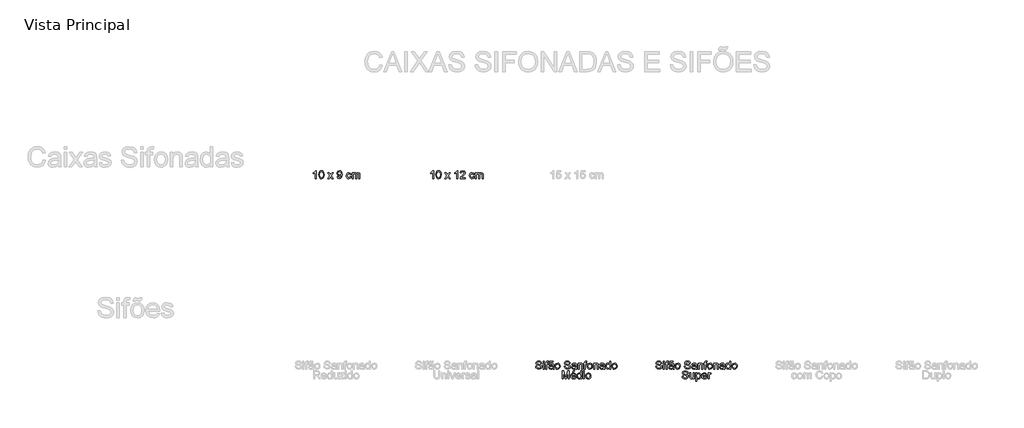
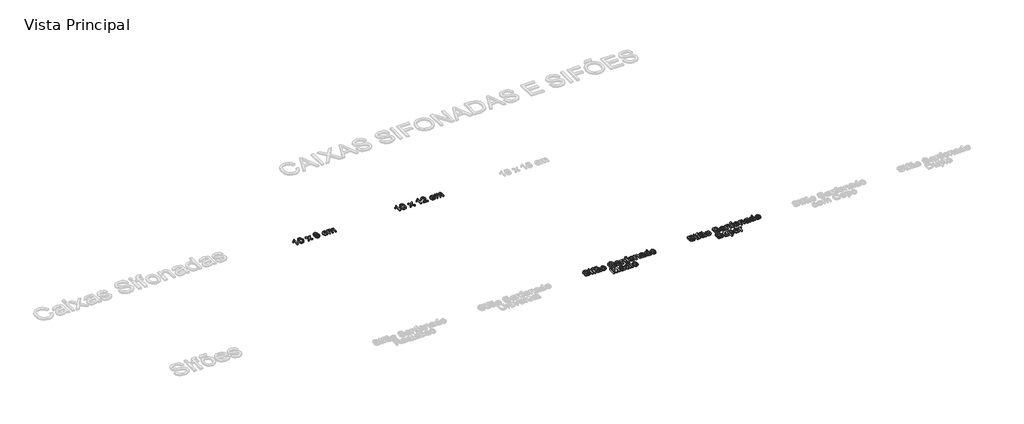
# One storey, part 3 of 5: 4 proxies.
"""IFC4 building model written with IfcOpenShell, lengths in millimetres."""

from ifc_helpers import new_model, si_unit, origin, origin_with_axes, place, context, project, spatial, polyline, outline, extrude, element, save

model = new_model("IFC4")

# Units and contexts
model_context = context("Model", 3, world=origin())
ifc_project = project(units=[si_unit("LENGTHUNIT", "METRE", prefix="MILLI")], contexts=[model_context])

# Site, building, storey
site = spatial("IfcSite", under=ifc_project)
building = spatial("IfcBuilding", under=site)
storey = spatial("IfcBuildingStorey", under=building, Name="Vista Principal", Elevation=0.0)

# Proxies
placement = place(None, origin())
element("IfcBuildingElementProxy", 1, Name="Texto", ObjectType="Texto", at=placement, inside=storey, context=model_context, shape_type="SweptSolid", body=[
    extrude(outline(polyline([(-849.2974534, -411.7621072), (-856.8316767, -411.7621072), (-856.8316767, -364.7909341), (-863.9685874, -369.8750633), (-871.9001232, -373.6789631), (-871.9001232, -366.5567677), (-860.8563057, -359.5081486), (-854.1534958, -351.4883211), (-849.2974534, -351.4883211), (-849.2974534, -411.7621072)])), origin_with_axes(), (0.0, 0.0, 1.0), 10.0),
    extrude(outline(polyline([(-831.4036732, -382.1108184), (-829.1890236, -364.7688612), (-822.6112935, -354.7698285), (-811.6263371, -351.4883211), (-802.8265998, -353.4307381), (-796.7491893, -359.029902), (-793.2175221, -367.9473616), (-791.8490011, -382.1108184), (-794.0415778, -399.3791993), (-800.5972349, -409.4003048), (-811.6263371, -412.7038851), (-819.454866, -411.2691454), (-825.399839, -406.964926), (-829.9027147, -396.7709159), (-831.4036732, -382.1108184)]), holes=[polyline([(-823.8694499, -382.0961031), (-820.3377828, -400.8065814), (-811.6263371, -405.1696619), (-802.9148915, -400.7918661), (-799.3832243, -382.0961031), (-802.7971693, -363.5989964), (-811.7146288, -359.0225444), (-820.2200606, -363.0545311), (-823.8694499, -382.0961031)])]), origin_with_axes(), (0.0, 0.0, 1.0), 10.0),
    extrude(outline(polyline([(-764.5374418, -411.7621072), (-748.4389257, -389.5126042), (-763.5956639, -367.4985456), (-754.5310515, -367.4985456), (-747.2175574, -378.093547), (-743.8036125, -383.0967422), (-740.8458413, -379.0058944), (-732.5169929, -367.4985456), (-723.4523805, -367.4985456), (-739.3743133, -389.5126042), (-724.0409917, -411.7621072), (-733.1056041, -411.7621072), (-742.3320845, -398.3859179), (-744.0243417, -395.9431814), (-755.4728294, -411.7621072), (-764.5374418, -411.7621072)])), origin_with_axes(), (0.0, 0.0, 1.0), 10.0),
    extrude(outline(polyline([(-667.5343173, -411.7621072), (-675.0685405, -411.7621072), (-675.0685405, -364.7909341), (-682.2054512, -369.8750633), (-690.1369871, -373.6789631), (-690.1369871, -366.5567677), (-679.0931696, -359.5081486), (-672.3903596, -351.4883211), (-667.5343173, -351.4883211), (-667.5343173, -411.7621072)])), origin_with_axes(), (0.0, 0.0, 1.0), 10.0),
    extrude(outline(polyline([(-611.0276428, -404.227884), (-611.0276428, -411.7621072), (-650.5823149, -411.7621072), (-649.7729745, -406.5676135), (-645.1965225, -398.5698589), (-635.7640282, -389.8363403), (-622.7557208, -377.2842066), (-619.503644, -368.7493444), (-622.5717798, -361.8405205), (-630.5842497, -359.0225444), (-638.935171, -361.7743017), (-642.1063138, -369.3821014), (-649.640537, -368.4403235), (-643.8647897, -355.8293287), (-630.4223816, -351.4883211), (-616.9358277, -356.3149329), (-611.9694207, -368.2931707), (-613.3085112, -375.437439), (-617.7598833, -382.8245095), (-628.5535411, -393.1472783), (-637.2208409, -400.3945536), (-640.6200705, -404.227884), (-611.0276428, -404.227884)])), origin_with_axes(), (0.0, 0.0, 1.0), 10.0),
    extrude(outline(polyline([(-549.8120788, -395.7518828), (-542.2778556, -396.6936607), (-548.3258356, -408.4585269), (-560.2746428, -412.7038851), (-568.288952, -411.2231601), (-574.5558218, -406.780985), (-578.6006843, -399.5723373), (-579.9489719, -389.7921945), (-577.6460306, -377.276849), (-570.6268421, -369.2349486), (-560.3776497, -366.5567677), (-548.9218044, -370.2355876), (-543.2196335, -380.6834363), (-550.7538567, -381.6252142), (-554.2487357, -375.9819044), (-560.3187886, -374.0909909), (-569.0523072, -377.8139567), (-572.4147486, -389.5861806), (-569.1258836, -401.468769), (-560.5248025, -405.1696619), (-553.42468, -402.8593629), (-549.8120788, -395.7518828)])), origin_with_axes(), (0.0, 0.0, 1.0), 10.0),
    extrude(outline(polyline([(-535.6854102, -411.7621072), (-535.6854102, -367.4985456), (-528.1511869, -367.4985456), (-528.1511869, -374.7826091), (-522.9714084, -368.8155631), (-515.5990533, -366.5567677), (-508.0501147, -368.859709), (-503.9004058, -375.3123592), (-498.0216515, -368.7456655), (-490.5977929, -366.5567677), (-480.745913, -370.1987994), (-477.2951799, -381.4192003), (-477.2951799, -411.7621072), (-484.8294032, -411.7621072), (-484.8294032, -384.6565618), (-485.528379, -378.3657797), (-488.0594071, -375.2682133), (-492.3636264, -374.0909909), (-499.7727698, -377.1076233), (-502.7231834, -386.7755621), (-502.7231834, -411.7621072), (-510.2574067, -411.7621072), (-510.2574067, -383.8177909), (-512.0011674, -376.5190121), (-517.7180536, -374.0909909), (-523.2951446, -375.7096717), (-527.0033951, -380.4479918), (-528.1511869, -389.4390278), (-528.1511869, -411.7621072), (-535.6854102, -411.7621072)])), origin_with_axes(), (0.0, 0.0, 1.0), 10.0),
])
element("IfcBuildingElementProxy", 2, Name="Texto", ObjectType="Texto", at=placement, inside=storey, context=model_context, shape_type="SweptSolid", body=[
    extrude(outline(polyline([(-84.9026785, -1818.6887424), (-77.3684552, -1818.6887424), (-74.940434, -1826.2303233), (-69.0101763, -1830.998074), (-59.9749945, -1832.8154111), (-52.1023198, -1831.4395324), (-47.0181906, -1827.6577055), (-45.3480063, -1822.6030069), (-46.5988051, -1817.901475), (-51.7197225, -1814.4801724), (-62.6899636, -1811.6033352), (-74.4989756, -1807.8877271), (-80.90748, -1802.2812055), (-83.0191226, -1794.791128), (-80.4071605, -1786.2636234), (-72.7772879, -1780.2450739), (-61.6083905, -1778.1922924), (-49.6890139, -1780.3407233), (-41.7427628, -1786.6535783), (-38.755561, -1796.0860727), (-46.2897842, -1796.0860727), (-50.5572154, -1788.3458355), (-61.3140849, -1785.7265157), (-72.100385, -1788.3164049), (-75.4848994, -1794.5703988), (-73.0863088, -1799.7943232), (-60.7843349, -1804.0028932), (-47.4522914, -1807.7847201), (-40.1608702, -1813.8915612), (-37.8137831, -1822.4117082), (-40.5140369, -1831.4248171), (-48.2837047, -1838.0025472), (-59.6806889, -1840.3496343), (-73.1378123, -1837.8186062), (-81.6506016, -1830.1960912), (-84.9026785, -1818.6887424)])), origin_with_axes(), (0.0, 0.0, 1.0), 10.0),
    extrude(outline(polyline([(-27.4542261, -1839.4078564), (-27.4542261, -1795.1442947), (-19.9200028, -1795.1442947), (-19.9200028, -1839.4078564), (-27.4542261, -1839.4078564)])), origin_with_axes(), (0.0, 0.0, 1.0), 10.0),
    extrude(outline(polyline([(-27.4542261, -1786.6682936), (-27.4542261, -1779.1340703), (-19.9200028, -1779.1340703), (-19.9200028, -1786.6682936), (-27.4542261, -1786.6682936)])), origin_with_axes(), (0.0, 0.0, 1.0), 10.0),
    extrude(outline(polyline([(-6.7351121, -1839.4078564), (-6.7351121, -1802.678518), (-13.3275575, -1802.678518), (-13.3275575, -1795.1442947), (-6.7351121, -1795.1442947), (-6.7351121, -1790.685565), (-5.940487, -1784.4021405), (-2.0850837, -1779.9139801), (5.5080007, -1778.1922924), (12.3800363, -1779.0163481), (11.2763904, -1786.0796824), (6.9353828, -1785.7265157), (2.1897051, -1786.9773145), (0.7991111, -1791.6420582), (0.7991111, -1795.1442947), (9.2751123, -1795.1442947), (9.2751123, -1802.678518), (0.7991111, -1802.678518), (0.7991111, -1839.4078564), (-6.7351121, -1839.4078564)])), origin_with_axes(), (0.0, 0.0, 1.0), 10.0),
    extrude(outline(polyline([(44.1208949, -1833.757189), (36.8147585, -1838.8633911), (28.7434275, -1840.3496343), (17.802617, -1836.7738213), (13.9840018, -1827.6356326), (15.4260993, -1821.6759442), (19.2152838, -1817.349652), (24.4907116, -1814.877485), (31.0095806, -1813.7444084), (44.076749, -1811.1545192), (44.1208949, -1809.4769773), (42.0460404, -1803.9146015), (33.7171921, -1801.7367401), (26.0946771, -1803.1861952), (22.460003, -1808.3291855), (14.9257798, -1807.3874075), (18.1852142, -1800.0297676), (24.748229, -1795.7181907), (34.6884005, -1794.2025168), (43.8192317, -1795.5416073), (48.9769372, -1798.9040487), (51.2872362, -1804.0176085), (51.6551181, -1810.6100538), (51.6551181, -1819.9836871), (52.0377154, -1833.0729284), (53.538674, -1839.4078564), (46.0044507, -1839.4078564), (44.1208949, -1833.757189)]), holes=[polyline([(44.1208949, -1818.6887424), (31.9660738, -1820.9990414), (25.483993, -1822.2204096), (22.5482947, -1824.2069724), (21.5182251, -1827.1058825), (23.7623053, -1831.182015), (30.347393, -1832.8154111), (37.9699079, -1831.0127893), (42.8848114, -1826.6497088), (44.076749, -1820.822458), (44.1208949, -1818.6887424)])]), origin_with_axes(), (0.0, 0.0, 1.0), 10.0),
    extrude(outline(polyline([(20.5764472, -1790.4354052), (22.9161767, -1782.2095638), (28.9052956, -1779.1340703), (34.9385603, -1781.5620915), (37.9846232, -1782.9011819), (39.5812311, -1782.143345), (40.3537833, -1779.1340703), (46.9462286, -1779.1340703), (44.5549956, -1787.6100715), (38.7792483, -1790.4354052), (32.81956, -1788.1398216), (29.6410596, -1786.6682936), (27.8457954, -1787.6247868), (27.1688926, -1790.4354052), (20.5764472, -1790.4354052)])), origin_with_axes(), (0.0, 0.0, 1.0), 10.0),
    extrude(outline(polyline([(60.1311193, -1817.2760756), (61.7608366, -1806.6038189), (66.6499883, -1799.102705), (79.9231707, -1794.2025168), (87.8381518, -1795.6942783), (94.1602039, -1800.1695628), (98.3043945, -1807.2752035), (99.6857914, -1816.6580338), (97.243055, -1830.0636537), (90.1282172, -1837.6493805), (79.9231707, -1840.3496343), (71.9125402, -1838.8633911), (65.5978458, -1834.4046613), (61.4978009, -1827.1500283), (60.1311193, -1817.2760756)]), holes=[polyline([(67.6653426, -1817.2613603), (71.1528639, -1828.9379348), (79.9231707, -1832.8154111), (88.6640469, -1828.9158619), (92.1515682, -1817.0259158), (88.6419739, -1805.6142163), (79.9231707, -1801.7367401), (71.1528639, -1805.599501), (67.6653426, -1817.2613603)])]), origin_with_axes(), (0.0, 0.0, 1.0), 10.0),
    extrude(outline(polyline([(129.8226845, -1818.6887424), (137.3569077, -1818.6887424), (139.7849289, -1826.2303233), (145.7151867, -1830.998074), (154.7503685, -1832.8154111), (162.6230432, -1831.4395324), (167.7071723, -1827.6577055), (169.3773566, -1822.6030069), (168.1265578, -1817.901475), (163.0056404, -1814.4801724), (152.0353994, -1811.6033352), (140.2263873, -1807.8877271), (133.817883, -1802.2812055), (131.7062403, -1794.791128), (134.3182025, -1786.2636234), (141.948075, -1780.2450739), (153.1169724, -1778.1922924), (165.0363491, -1780.3407233), (172.9826002, -1786.6535783), (175.969802, -1796.0860727), (168.4355787, -1796.0860727), (164.1681476, -1788.3458355), (153.411278, -1785.7265157), (142.6249779, -1788.3164049), (139.2404636, -1794.5703988), (141.6390542, -1799.7943232), (153.9410281, -1804.0028932), (167.2730716, -1807.7847201), (174.5644927, -1813.8915612), (176.9115799, -1822.4117082), (174.211326, -1831.4248171), (166.4416583, -1838.0025472), (155.0446741, -1840.3496343), (141.5875507, -1837.8186062), (133.0747613, -1830.1960912), (129.8226845, -1818.6887424)])), origin_with_axes(), (0.0, 0.0, 1.0), 10.0),
    extrude(outline(polyline([(215.5244741, -1833.757189), (208.2183377, -1838.8633911), (200.1470067, -1840.3496343), (189.2061961, -1836.7738213), (185.387581, -1827.6356326), (186.8296785, -1821.6759442), (190.618863, -1817.349652), (195.8942908, -1814.877485), (202.4131598, -1813.7444084), (215.4803282, -1811.1545192), (215.5244741, -1809.4769773), (213.4496196, -1803.9146015), (205.1207713, -1801.7367401), (197.4982563, -1803.1861952), (193.8635822, -1808.3291855), (186.3293589, -1807.3874075), (189.5887934, -1800.0297676), (196.1518082, -1795.7181907), (206.0919797, -1794.2025168), (215.2228108, -1795.5416073), (220.3805164, -1798.9040487), (222.6908153, -1804.0176085), (223.0586973, -1810.6100538), (223.0586973, -1819.9836871), (223.4412946, -1833.0729284), (224.9422532, -1839.4078564), (217.4080299, -1839.4078564), (215.5244741, -1833.757189)]), holes=[polyline([(215.5244741, -1818.6887424), (203.369653, -1820.9990414), (196.8875722, -1822.2204096), (193.9518739, -1824.2069724), (192.9218043, -1827.1058825), (195.1658845, -1831.182015), (201.7509722, -1832.8154111), (209.3734871, -1831.0127893), (214.2883906, -1826.6497088), (215.4803282, -1820.822458), (215.5244741, -1818.6887424)])]), origin_with_axes(), (0.0, 0.0, 1.0), 10.0),
    extrude(outline(polyline([(233.4182543, -1839.4078564), (233.4182543, -1795.1442947), (240.9524776, -1795.1442947), (240.9524776, -1801.3247123), (246.7135096, -1795.9830657), (254.5788267, -1794.2025168), (261.6936645, -1795.6372566), (266.5497068, -1799.4043683), (268.8085023, -1804.9446711), (269.2058148, -1812.2287346), (269.2058148, -1839.4078564), (261.6715916, -1839.4078564), (261.6715916, -1813.2440889), (260.80339, -1806.5780672), (257.7352542, -1803.0537576), (252.5628334, -1801.7367401), (244.3884954, -1804.6945113), (240.9524776, -1815.9222698), (240.9524776, -1839.4078564), (233.4182543, -1839.4078564)])), origin_with_axes(), (0.0, 0.0, 1.0), 10.0),
    extrude(outline(polyline([(281.4489276, -1839.4078564), (281.4489276, -1802.678518), (274.8564823, -1802.678518), (274.8564823, -1795.1442947), (281.4489276, -1795.1442947), (281.4489276, -1790.685565), (282.2435527, -1784.4021405), (286.098956, -1779.9139801), (293.6920404, -1778.1922924), (300.5640761, -1779.0163481), (299.4604301, -1786.0796824), (295.1194226, -1785.7265157), (290.3737448, -1786.9773145), (288.9831509, -1791.6420582), (288.9831509, -1795.1442947), (297.459152, -1795.1442947), (297.459152, -1802.678518), (288.9831509, -1802.678518), (288.9831509, -1839.4078564), (281.4489276, -1839.4078564)])), origin_with_axes(), (0.0, 0.0, 1.0), 10.0),
    extrude(outline(polyline([(302.1680416, -1817.2760756), (303.7977588, -1806.6038189), (308.6869105, -1799.102705), (321.9600929, -1794.2025168), (329.8750741, -1795.6942783), (336.1971261, -1800.1695628), (340.3413168, -1807.2752035), (341.7227137, -1816.6580338), (339.2799773, -1830.0636537), (332.1651395, -1837.6493805), (321.9600929, -1840.3496343), (313.9494625, -1838.8633911), (307.634768, -1834.4046613), (303.5347232, -1827.1500283), (302.1680416, -1817.2760756)]), holes=[polyline([(309.7022648, -1817.2613603), (313.1897862, -1828.9379348), (321.9600929, -1832.8154111), (330.7009691, -1828.9158619), (334.1884904, -1817.0259158), (330.6788962, -1805.6142163), (321.9600929, -1801.7367401), (313.1897862, -1805.599501), (309.7022648, -1817.2613603)])]), origin_with_axes(), (0.0, 0.0, 1.0), 10.0),
    extrude(outline(polyline([(350.1987149, -1839.4078564), (350.1987149, -1795.1442947), (357.7329381, -1795.1442947), (357.7329381, -1801.3247123), (363.4939702, -1795.9830657), (371.3592872, -1794.2025168), (378.474125, -1795.6372566), (383.3301674, -1799.4043683), (385.5889628, -1804.9446711), (385.9862754, -1812.2287346), (385.9862754, -1839.4078564), (378.4520521, -1839.4078564), (378.4520521, -1813.2440889), (377.5838506, -1806.5780672), (374.5157148, -1803.0537576), (369.3432939, -1801.7367401), (361.168956, -1804.6945113), (357.7329381, -1815.9222698), (357.7329381, -1839.4078564), (350.1987149, -1839.4078564)])), origin_with_axes(), (0.0, 0.0, 1.0), 10.0),
    extrude(outline(polyline([(424.5991696, -1833.757189), (417.2930332, -1838.8633911), (409.2217022, -1840.3496343), (398.2808916, -1836.7738213), (394.4622765, -1827.6356326), (395.904374, -1821.6759442), (399.6935585, -1817.349652), (404.9689863, -1814.877485), (411.4878553, -1813.7444084), (424.5550237, -1811.1545192), (424.5991696, -1809.4769773), (422.5243151, -1803.9146015), (414.1954668, -1801.7367401), (406.5729518, -1803.1861952), (402.9382777, -1808.3291855), (395.4040544, -1807.3874075), (398.6634889, -1800.0297676), (405.2265037, -1795.7181907), (415.1666752, -1794.2025168), (424.2975063, -1795.5416073), (429.4552119, -1798.9040487), (431.7655108, -1804.0176085), (432.1333928, -1810.6100538), (432.1333928, -1819.9836871), (432.5159901, -1833.0729284), (434.0169487, -1839.4078564), (426.4827254, -1839.4078564), (424.5991696, -1833.757189)]), holes=[polyline([(424.5991696, -1818.6887424), (412.4443485, -1820.9990414), (405.9622677, -1822.2204096), (403.0265694, -1824.2069724), (401.9964998, -1827.1058825), (404.24058, -1831.182015), (410.8256677, -1832.8154111), (418.4481826, -1831.0127893), (423.3630861, -1826.6497088), (424.5550237, -1820.822458), (424.5991696, -1818.6887424)])]), origin_with_axes(), (0.0, 0.0, 1.0), 10.0),
    extrude(outline(polyline([(469.8045091, -1839.4078564), (469.8045091, -1832.3003763), (464.8197081, -1838.3373198), (457.9292783, -1840.3496343), (448.5997909, -1837.4360089), (442.0073456, -1829.3058168), (439.6676161, -1817.3202214), (441.8234046, -1805.3272684), (448.2834124, -1797.0719964), (457.8998478, -1794.2025168), (464.8454599, -1796.2552984), (469.8045091, -1801.5895873), (469.8045091, -1779.1340703), (477.3387324, -1779.1340703), (477.3387324, -1839.4078564), (469.8045091, -1839.4078564)]), holes=[polyline([(447.2018394, -1817.2907909), (450.601069, -1828.9526501), (458.6208965, -1832.8154111), (466.5450747, -1829.1292335), (469.8045091, -1817.8646868), (466.4862136, -1805.6362892), (458.3118756, -1801.7367401), (450.3803398, -1805.4817788), (447.2018394, -1817.2907909)])]), origin_with_axes(), (0.0, 0.0, 1.0), 10.0),
    extrude(outline(polyline([(486.7565115, -1817.2760756), (488.3862287, -1806.6038189), (493.2753804, -1799.102705), (506.5485628, -1794.2025168), (514.463544, -1795.6942783), (520.785596, -1800.1695628), (524.9297867, -1807.2752035), (526.3111836, -1816.6580338), (523.8684472, -1830.0636537), (516.7536094, -1837.6493805), (506.5485628, -1840.3496343), (498.5379324, -1838.8633911), (492.2232379, -1834.4046613), (488.1231931, -1827.1500283), (486.7565115, -1817.2760756)]), holes=[polyline([(494.2907347, -1817.2613603), (497.7782561, -1828.9379348), (506.5485628, -1832.8154111), (515.289439, -1828.9158619), (518.7769603, -1817.0259158), (515.2673661, -1805.6142163), (506.5485628, -1801.7367401), (497.7782561, -1805.599501), (494.2907347, -1817.2613603)])]), origin_with_axes(), (0.0, 0.0, 1.0), 10.0),
    extrude(outline(polyline([(113.8124601, -1912.5927471), (113.8124601, -1852.318961), (126.7766216, -1852.318961), (139.108026, -1894.8019738), (141.5949083, -1903.6752876), (144.2878045, -1894.0662098), (156.4131951, -1852.318961), (169.3773566, -1852.318961), (169.3773566, -1912.5927471), (161.8431333, -1912.5927471), (161.8431333, -1859.8531843), (146.7011104, -1912.5927471), (136.4887062, -1912.5927471), (121.3466833, -1859.8531843), (121.3466833, -1912.5927471), (113.8124601, -1912.5927471)])), origin_with_axes(), (0.0, 0.0, 1.0), 10.0),
    extrude(outline(polyline([(212.6108487, -1899.4078564), (219.9979191, -1900.3496343), (213.0890953, -1910.0764343), (200.2205831, -1913.534525), (191.3803787, -1912.0427635), (184.5782406, -1907.5674791), (180.2409119, -1900.3992984), (178.7951357, -1890.8288483), (180.2556272, -1880.9365014), (184.6371018, -1873.5383945), (191.3472694, -1868.9251543), (199.79384, -1867.3874075), (207.977375, -1868.9214755), (214.5164774, -1873.5236792), (218.8041421, -1880.9070709), (220.2333636, -1890.7847024), (220.1892178, -1892.8154111), (186.3293589, -1892.8154111), (190.6630088, -1902.6010721), (200.3677359, -1906.0003018), (207.7548063, -1904.4257668), (212.6108487, -1899.4078564)]), holes=[polyline([(186.3293589, -1885.2811878), (212.6991404, -1885.2811878), (209.682508, -1878.453298), (199.7644094, -1874.9216308), (190.4864255, -1877.7396069), (186.3293589, -1885.2811878)])]), origin_with_axes(), (0.0, 0.0, 1.0), 10.0),
    extrude(outline(polyline([(193.8635822, -1863.6202959), (199.5142497, -1852.318961), (208.9320287, -1852.318961), (199.5142497, -1863.6202959), (193.8635822, -1863.6202959)])), origin_with_axes(), (0.0, 0.0, 1.0), 10.0),
    extrude(outline(polyline([(255.0791462, -1912.5927471), (255.0791462, -1905.485267), (250.0943452, -1911.5222105), (243.2039154, -1913.534525), (233.874428, -1910.6208996), (227.2819826, -1902.4907075), (224.9422532, -1890.5051121), (227.0980416, -1878.5121591), (233.5580495, -1870.2568871), (243.1744848, -1867.3874075), (250.1200969, -1869.4401891), (255.0791462, -1874.774478), (255.0791462, -1852.318961), (262.6133695, -1852.318961), (262.6133695, -1912.5927471), (255.0791462, -1912.5927471)]), holes=[polyline([(232.4764764, -1890.4756816), (235.8757061, -1902.1375408), (243.8955335, -1906.0003018), (251.8197117, -1902.3141242), (255.0791462, -1891.0495775), (251.7608506, -1878.82118), (243.5865127, -1874.9216308), (235.6549769, -1878.6666695), (232.4764764, -1890.4756816)])]), origin_with_axes(), (0.0, 0.0, 1.0), 10.0),
    extrude(outline(polyline([(273.9147044, -1859.8531843), (273.9147044, -1852.318961), (281.4489276, -1852.318961), (281.4489276, -1859.8531843), (273.9147044, -1859.8531843)])), origin_with_axes(), (0.0, 0.0, 1.0), 10.0),
    extrude(outline(polyline([(273.9147044, -1912.5927471), (273.9147044, -1868.3291855), (281.4489276, -1868.3291855), (281.4489276, -1912.5927471), (273.9147044, -1912.5927471)])), origin_with_axes(), (0.0, 0.0, 1.0), 10.0),
    extrude(outline(polyline([(290.8667067, -1890.4609663), (292.4964239, -1879.7887096), (297.3855756, -1872.2875957), (310.658758, -1867.3874075), (318.5737392, -1868.879169), (324.8957912, -1873.3544535), (329.0399819, -1880.4600942), (330.4213788, -1889.8429245), (327.9786424, -1903.2485444), (320.8638046, -1910.8342712), (310.658758, -1913.534525), (302.6481276, -1912.0482818), (296.3334331, -1907.589552), (292.2333883, -1900.334919), (290.8667067, -1890.4609663)]), holes=[polyline([(298.40093, -1890.446251), (301.8884513, -1902.1228255), (310.658758, -1906.0003018), (319.3996342, -1902.1007526), (322.8871556, -1890.2108065), (319.3775613, -1878.799107), (310.658758, -1874.9216308), (301.8884513, -1878.7843918), (298.40093, -1890.446251)])]), origin_with_axes(), (0.0, 0.0, 1.0), 10.0),
])
element("IfcBuildingElementProxy", 3, Name="Texto", ObjectType="Texto", at=placement, inside=storey, context=model_context, shape_type="SweptSolid", body=[
    extrude(outline(polyline([(815.0973215, -1818.6887424), (822.6315448, -1818.6887424), (825.059566, -1826.2303233), (830.9898237, -1830.998074), (840.0250055, -1832.8154111), (847.8976802, -1831.4395324), (852.9818094, -1827.6577055), (854.6519937, -1822.6030069), (853.4011949, -1817.901475), (848.2802775, -1814.4801724), (837.3100364, -1811.6033352), (825.5010244, -1807.8877271), (819.09252, -1802.2812055), (816.9808774, -1794.791128), (819.5928395, -1786.2636234), (827.2227121, -1780.2450739), (838.3916095, -1778.1922924), (850.3109861, -1780.3407233), (858.2572372, -1786.6535783), (861.244439, -1796.0860727), (853.7102158, -1796.0860727), (849.4427846, -1788.3458355), (838.6859151, -1785.7265157), (827.899615, -1788.3164049), (824.5151006, -1794.5703988), (826.9136912, -1799.7943232), (839.2156651, -1804.0028932), (852.5477086, -1807.7847201), (859.8391298, -1813.8915612), (862.1862169, -1822.4117082), (859.4859631, -1831.4248171), (851.7162953, -1838.0025472), (840.3193111, -1840.3496343), (826.8621877, -1837.8186062), (818.3493984, -1830.1960912), (815.0973215, -1818.6887424)])), origin_with_axes(), (0.0, 0.0, 1.0), 10.0),
    extrude(outline(polyline([(872.5457739, -1839.4078564), (872.5457739, -1795.1442947), (880.0799972, -1795.1442947), (880.0799972, -1839.4078564), (872.5457739, -1839.4078564)])), origin_with_axes(), (0.0, 0.0, 1.0), 10.0),
    extrude(outline(polyline([(872.5457739, -1786.6682936), (872.5457739, -1779.1340703), (880.0799972, -1779.1340703), (880.0799972, -1786.6682936), (872.5457739, -1786.6682936)])), origin_with_axes(), (0.0, 0.0, 1.0), 10.0),
    extrude(outline(polyline([(893.2648879, -1839.4078564), (893.2648879, -1802.678518), (886.6724425, -1802.678518), (886.6724425, -1795.1442947), (893.2648879, -1795.1442947), (893.2648879, -1790.685565), (894.059513, -1784.4021405), (897.9149163, -1779.9139801), (905.5080007, -1778.1922924), (912.3800363, -1779.0163481), (911.2763904, -1786.0796824), (906.9353828, -1785.7265157), (902.1897051, -1786.9773145), (900.7991111, -1791.6420582), (900.7991111, -1795.1442947), (909.2751123, -1795.1442947), (909.2751123, -1802.678518), (900.7991111, -1802.678518), (900.7991111, -1839.4078564), (893.2648879, -1839.4078564)])), origin_with_axes(), (0.0, 0.0, 1.0), 10.0),
    extrude(outline(polyline([(944.1208949, -1833.757189), (936.8147585, -1838.8633911), (928.7434275, -1840.3496343), (917.802617, -1836.7738213), (913.9840018, -1827.6356326), (915.4260993, -1821.6759442), (919.2152838, -1817.349652), (924.4907116, -1814.877485), (931.0095806, -1813.7444084), (944.076749, -1811.1545192), (944.1208949, -1809.4769773), (942.0460404, -1803.9146015), (933.7171921, -1801.7367401), (926.0946771, -1803.1861952), (922.460003, -1808.3291855), (914.9257798, -1807.3874075), (918.1852142, -1800.0297676), (924.748229, -1795.7181907), (934.6884005, -1794.2025168), (943.8192317, -1795.5416073), (948.9769372, -1798.9040487), (951.2872362, -1804.0176085), (951.6551181, -1810.6100538), (951.6551181, -1819.9836871), (952.0377154, -1833.0729284), (953.538674, -1839.4078564), (946.0044507, -1839.4078564), (944.1208949, -1833.757189)]), holes=[polyline([(944.1208949, -1818.6887424), (931.9660738, -1820.9990414), (925.483993, -1822.2204096), (922.5482947, -1824.2069724), (921.5182251, -1827.1058825), (923.7623053, -1831.182015), (930.347393, -1832.8154111), (937.9699079, -1831.0127893), (942.8848114, -1826.6497088), (944.076749, -1820.822458), (944.1208949, -1818.6887424)])]), origin_with_axes(), (0.0, 0.0, 1.0), 10.0),
    extrude(outline(polyline([(920.5764472, -1790.4354052), (922.9161767, -1782.2095638), (928.9052956, -1779.1340703), (934.9385603, -1781.5620915), (937.9846232, -1782.9011819), (939.5812311, -1782.143345), (940.3537833, -1779.1340703), (946.9462286, -1779.1340703), (944.5549956, -1787.6100715), (938.7792483, -1790.4354052), (932.81956, -1788.1398216), (929.6410596, -1786.6682936), (927.8457954, -1787.6247868), (927.1688926, -1790.4354052), (920.5764472, -1790.4354052)])), origin_with_axes(), (0.0, 0.0, 1.0), 10.0),
    extrude(outline(polyline([(960.1311193, -1817.2760756), (961.7608366, -1806.6038189), (966.6499883, -1799.102705), (979.9231707, -1794.2025168), (987.8381518, -1795.6942783), (994.1602039, -1800.1695628), (998.3043945, -1807.2752035), (999.6857914, -1816.6580338), (997.243055, -1830.0636537), (990.1282172, -1837.6493805), (979.9231707, -1840.3496343), (971.9125402, -1838.8633911), (965.5978458, -1834.4046613), (961.4978009, -1827.1500283), (960.1311193, -1817.2760756)]), holes=[polyline([(967.6653426, -1817.2613603), (971.1528639, -1828.9379348), (979.9231707, -1832.8154111), (988.6640469, -1828.9158619), (992.1515682, -1817.0259158), (988.6419739, -1805.6142163), (979.9231707, -1801.7367401), (971.1528639, -1805.599501), (967.6653426, -1817.2613603)])]), origin_with_axes(), (0.0, 0.0, 1.0), 10.0),
    extrude(outline(polyline([(1029.8226845, -1818.6887424), (1037.3569077, -1818.6887424), (1039.7849289, -1826.2303233), (1045.7151867, -1830.998074), (1054.7503685, -1832.8154111), (1062.6230432, -1831.4395324), (1067.7071723, -1827.6577055), (1069.3773566, -1822.6030069), (1068.1265578, -1817.901475), (1063.0056404, -1814.4801724), (1052.0353994, -1811.6033352), (1040.2263873, -1807.8877271), (1033.817883, -1802.2812055), (1031.7062403, -1794.791128), (1034.3182025, -1786.2636234), (1041.948075, -1780.2450739), (1053.1169724, -1778.1922924), (1065.0363491, -1780.3407233), (1072.9826002, -1786.6535783), (1075.969802, -1796.0860727), (1068.4355787, -1796.0860727), (1064.1681476, -1788.3458355), (1053.411278, -1785.7265157), (1042.6249779, -1788.3164049), (1039.2404636, -1794.5703988), (1041.6390542, -1799.7943232), (1053.9410281, -1804.0028932), (1067.2730716, -1807.7847201), (1074.5644927, -1813.8915612), (1076.9115799, -1822.4117082), (1074.211326, -1831.4248171), (1066.4416583, -1838.0025472), (1055.0446741, -1840.3496343), (1041.5875507, -1837.8186062), (1033.0747613, -1830.1960912), (1029.8226845, -1818.6887424)])), origin_with_axes(), (0.0, 0.0, 1.0), 10.0),
    extrude(outline(polyline([(1115.5244741, -1833.757189), (1108.2183377, -1838.8633911), (1100.1470067, -1840.3496343), (1089.2061961, -1836.7738213), (1085.387581, -1827.6356326), (1086.8296785, -1821.6759442), (1090.618863, -1817.349652), (1095.8942908, -1814.877485), (1102.4131598, -1813.7444084), (1115.4803282, -1811.1545192), (1115.5244741, -1809.4769773), (1113.4496196, -1803.9146015), (1105.1207713, -1801.7367401), (1097.4982563, -1803.1861952), (1093.8635822, -1808.3291855), (1086.3293589, -1807.3874075), (1089.5887934, -1800.0297676), (1096.1518082, -1795.7181907), (1106.0919797, -1794.2025168), (1115.2228108, -1795.5416073), (1120.3805164, -1798.9040487), (1122.6908153, -1804.0176085), (1123.0586973, -1810.6100538), (1123.0586973, -1819.9836871), (1123.4412946, -1833.0729284), (1124.9422532, -1839.4078564), (1117.4080299, -1839.4078564), (1115.5244741, -1833.757189)]), holes=[polyline([(1115.5244741, -1818.6887424), (1103.369653, -1820.9990414), (1096.8875722, -1822.2204096), (1093.9518739, -1824.2069724), (1092.9218043, -1827.1058825), (1095.1658845, -1831.182015), (1101.7509722, -1832.8154111), (1109.3734871, -1831.0127893), (1114.2883906, -1826.6497088), (1115.4803282, -1820.822458), (1115.5244741, -1818.6887424)])]), origin_with_axes(), (0.0, 0.0, 1.0), 10.0),
    extrude(outline(polyline([(1133.4182543, -1839.4078564), (1133.4182543, -1795.1442947), (1140.9524776, -1795.1442947), (1140.9524776, -1801.3247123), (1146.7135096, -1795.9830657), (1154.5788267, -1794.2025168), (1161.6936645, -1795.6372566), (1166.5497068, -1799.4043683), (1168.8085023, -1804.9446711), (1169.2058148, -1812.2287346), (1169.2058148, -1839.4078564), (1161.6715916, -1839.4078564), (1161.6715916, -1813.2440889), (1160.80339, -1806.5780672), (1157.7352542, -1803.0537576), (1152.5628334, -1801.7367401), (1144.3884954, -1804.6945113), (1140.9524776, -1815.9222698), (1140.9524776, -1839.4078564), (1133.4182543, -1839.4078564)])), origin_with_axes(), (0.0, 0.0, 1.0), 10.0),
    extrude(outline(polyline([(1181.4489276, -1839.4078564), (1181.4489276, -1802.678518), (1174.8564823, -1802.678518), (1174.8564823, -1795.1442947), (1181.4489276, -1795.1442947), (1181.4489276, -1790.685565), (1182.2435527, -1784.4021405), (1186.098956, -1779.9139801), (1193.6920404, -1778.1922924), (1200.5640761, -1779.0163481), (1199.4604301, -1786.0796824), (1195.1194226, -1785.7265157), (1190.3737448, -1786.9773145), (1188.9831509, -1791.6420582), (1188.9831509, -1795.1442947), (1197.459152, -1795.1442947), (1197.459152, -1802.678518), (1188.9831509, -1802.678518), (1188.9831509, -1839.4078564), (1181.4489276, -1839.4078564)])), origin_with_axes(), (0.0, 0.0, 1.0), 10.0),
    extrude(outline(polyline([(1202.1680416, -1817.2760756), (1203.7977588, -1806.6038189), (1208.6869105, -1799.102705), (1221.9600929, -1794.2025168), (1229.8750741, -1795.6942783), (1236.1971261, -1800.1695628), (1240.3413168, -1807.2752035), (1241.7227137, -1816.6580338), (1239.2799773, -1830.0636537), (1232.1651395, -1837.6493805), (1221.9600929, -1840.3496343), (1213.9494625, -1838.8633911), (1207.634768, -1834.4046613), (1203.5347232, -1827.1500283), (1202.1680416, -1817.2760756)]), holes=[polyline([(1209.7022648, -1817.2613603), (1213.1897862, -1828.9379348), (1221.9600929, -1832.8154111), (1230.7009691, -1828.9158619), (1234.1884904, -1817.0259158), (1230.6788962, -1805.6142163), (1221.9600929, -1801.7367401), (1213.1897862, -1805.599501), (1209.7022648, -1817.2613603)])]), origin_with_axes(), (0.0, 0.0, 1.0), 10.0),
    extrude(outline(polyline([(1250.1987149, -1839.4078564), (1250.1987149, -1795.1442947), (1257.7329381, -1795.1442947), (1257.7329381, -1801.3247123), (1263.4939702, -1795.9830657), (1271.3592872, -1794.2025168), (1278.474125, -1795.6372566), (1283.3301674, -1799.4043683), (1285.5889628, -1804.9446711), (1285.9862754, -1812.2287346), (1285.9862754, -1839.4078564), (1278.4520521, -1839.4078564), (1278.4520521, -1813.2440889), (1277.5838506, -1806.5780672), (1274.5157148, -1803.0537576), (1269.3432939, -1801.7367401), (1261.168956, -1804.6945113), (1257.7329381, -1815.9222698), (1257.7329381, -1839.4078564), (1250.1987149, -1839.4078564)])), origin_with_axes(), (0.0, 0.0, 1.0), 10.0),
    extrude(outline(polyline([(1324.5991696, -1833.757189), (1317.2930332, -1838.8633911), (1309.2217022, -1840.3496343), (1298.2808916, -1836.7738213), (1294.4622765, -1827.6356326), (1295.904374, -1821.6759442), (1299.6935585, -1817.349652), (1304.9689863, -1814.877485), (1311.4878553, -1813.7444084), (1324.5550237, -1811.1545192), (1324.5991696, -1809.4769773), (1322.5243151, -1803.9146015), (1314.1954668, -1801.7367401), (1306.5729518, -1803.1861952), (1302.9382777, -1808.3291855), (1295.4040544, -1807.3874075), (1298.6634889, -1800.0297676), (1305.2265037, -1795.7181907), (1315.1666752, -1794.2025168), (1324.2975063, -1795.5416073), (1329.4552119, -1798.9040487), (1331.7655108, -1804.0176085), (1332.1333928, -1810.6100538), (1332.1333928, -1819.9836871), (1332.5159901, -1833.0729284), (1334.0169487, -1839.4078564), (1326.4827254, -1839.4078564), (1324.5991696, -1833.757189)]), holes=[polyline([(1324.5991696, -1818.6887424), (1312.4443485, -1820.9990414), (1305.9622677, -1822.2204096), (1303.0265694, -1824.2069724), (1301.9964998, -1827.1058825), (1304.24058, -1831.182015), (1310.8256677, -1832.8154111), (1318.4481826, -1831.0127893), (1323.3630861, -1826.6497088), (1324.5550237, -1820.822458), (1324.5991696, -1818.6887424)])]), origin_with_axes(), (0.0, 0.0, 1.0), 10.0),
    extrude(outline(polyline([(1369.8045091, -1839.4078564), (1369.8045091, -1832.3003763), (1364.8197081, -1838.3373198), (1357.9292783, -1840.3496343), (1348.5997909, -1837.4360089), (1342.0073456, -1829.3058168), (1339.6676161, -1817.3202214), (1341.8234046, -1805.3272684), (1348.2834124, -1797.0719964), (1357.8998478, -1794.2025168), (1364.8454599, -1796.2552984), (1369.8045091, -1801.5895873), (1369.8045091, -1779.1340703), (1377.3387324, -1779.1340703), (1377.3387324, -1839.4078564), (1369.8045091, -1839.4078564)]), holes=[polyline([(1347.2018394, -1817.2907909), (1350.601069, -1828.9526501), (1358.6208965, -1832.8154111), (1366.5450747, -1829.1292335), (1369.8045091, -1817.8646868), (1366.4862136, -1805.6362892), (1358.3118756, -1801.7367401), (1350.3803398, -1805.4817788), (1347.2018394, -1817.2907909)])]), origin_with_axes(), (0.0, 0.0, 1.0), 10.0),
    extrude(outline(polyline([(1386.7565115, -1817.2760756), (1388.3862287, -1806.6038189), (1393.2753804, -1799.102705), (1406.5485628, -1794.2025168), (1414.463544, -1795.6942783), (1420.785596, -1800.1695628), (1424.9297867, -1807.2752035), (1426.3111836, -1816.6580338), (1423.8684472, -1830.0636537), (1416.7536094, -1837.6493805), (1406.5485628, -1840.3496343), (1398.5379324, -1838.8633911), (1392.2232379, -1834.4046613), (1388.1231931, -1827.1500283), (1386.7565115, -1817.2760756)]), holes=[polyline([(1394.2907347, -1817.2613603), (1397.7782561, -1828.9379348), (1406.5485628, -1832.8154111), (1415.289439, -1828.9158619), (1418.7769603, -1817.0259158), (1415.2673661, -1805.6142163), (1406.5485628, -1801.7367401), (1397.7782561, -1805.599501), (1394.2907347, -1817.2613603)])]), origin_with_axes(), (0.0, 0.0, 1.0), 10.0),
    extrude(outline(polyline([(1012.8706821, -1891.8736331), (1020.4049054, -1891.8736331), (1022.8329266, -1899.415214), (1028.7631843, -1904.1829647), (1037.7983661, -1906.0003018), (1045.6710408, -1904.6244231), (1050.75517, -1900.8425962), (1052.4253543, -1895.7878976), (1051.1745555, -1891.0863657), (1046.0536381, -1887.6650631), (1035.083397, -1884.7882259), (1023.274385, -1881.0726178), (1016.8658806, -1875.4660962), (1014.754238, -1867.9760187), (1017.3662001, -1859.4485141), (1024.9960727, -1853.4299646), (1036.1649701, -1851.3771831), (1048.0843467, -1853.525614), (1056.0305978, -1859.838469), (1059.0177996, -1869.2709634), (1051.4835764, -1869.2709634), (1047.2161452, -1861.5307262), (1036.4592757, -1858.9114064), (1025.6729756, -1861.5012956), (1022.2884612, -1867.7552895), (1024.6870518, -1872.9792139), (1036.9890258, -1877.1877839), (1050.3210693, -1880.9696108), (1057.6124904, -1887.0764519), (1059.9595775, -1895.5965989), (1057.2593237, -1904.6097078), (1049.4896559, -1911.1874379), (1038.0926717, -1913.534525), (1024.6355484, -1911.0034969), (1016.122759, -1903.380982), (1012.8706821, -1891.8736331)])), origin_with_axes(), (0.0, 0.0, 1.0), 10.0),
    extrude(outline(polyline([(1098.5724717, -1912.5927471), (1098.5724717, -1904.9849475), (1092.6716445, -1911.3971306), (1084.9755532, -1913.534525), (1077.890146, -1912.0335665), (1073.0046731, -1908.2664549), (1070.7605929, -1902.7187944), (1070.3191345, -1895.7143212), (1070.3191345, -1868.3291855), (1077.8533578, -1868.3291855), (1077.8533578, -1892.1679387), (1078.3095314, -1899.8493148), (1081.2893756, -1904.3595481), (1086.9032549, -1906.0003018), (1093.194037, -1904.3227599), (1097.3511035, -1899.7536655), (1098.5724717, -1891.3585984), (1098.5724717, -1868.3291855), (1106.106695, -1868.3291855), (1106.106695, -1912.5927471), (1098.5724717, -1912.5927471)])), origin_with_axes(), (0.0, 0.0, 1.0), 10.0),
    extrude(outline(polyline([(1116.466252, -1929.5447495), (1116.466252, -1868.3291855), (1124.0004753, -1868.3291855), (1124.0004753, -1875.7162559), (1129.2096843, -1869.4696196), (1136.243588, -1867.3874075), (1145.7938046, -1870.3010329), (1152.0330833, -1878.5121591), (1154.1373683, -1890.1225148), (1151.7608506, -1902.3288394), (1144.8593844, -1910.6429725), (1135.3312407, -1913.534525), (1128.7755835, -1911.5994657), (1124.0004753, -1906.7066352), (1124.0004753, -1929.5447495), (1116.466252, -1929.5447495)]), holes=[polyline([(1124.0004753, -1890.814133), (1127.2599097, -1902.2920512), (1135.1693726, -1906.0003018), (1143.2407036, -1902.1596137), (1146.603145, -1890.2549524), (1143.3216376, -1878.7476036), (1135.4783935, -1874.9216308), (1127.4806389, -1878.9904057), (1124.0004753, -1890.814133)])]), origin_with_axes(), (0.0, 0.0, 1.0), 10.0),
    extrude(outline(polyline([(1193.6037487, -1899.4078564), (1200.9908192, -1900.3496343), (1194.0819953, -1910.0764343), (1181.2134831, -1913.534525), (1172.3732788, -1912.0427635), (1165.5711407, -1907.5674791), (1161.233812, -1900.3992984), (1159.7880357, -1890.8288483), (1161.2485273, -1880.9365014), (1165.6300018, -1873.5383945), (1172.3401694, -1868.9251543), (1180.78674, -1867.3874075), (1188.970275, -1868.9214755), (1195.5093775, -1873.5236792), (1199.7970421, -1880.9070709), (1201.2262637, -1890.7847024), (1201.1821178, -1892.8154111), (1167.322259, -1892.8154111), (1171.6559089, -1902.6010721), (1181.3606359, -1906.0003018), (1188.7477064, -1904.4257668), (1193.6037487, -1899.4078564)]), holes=[polyline([(1167.322259, -1885.2811878), (1193.6920404, -1885.2811878), (1190.6754081, -1878.453298), (1180.7573095, -1874.9216308), (1171.4793255, -1877.7396069), (1167.322259, -1885.2811878)])]), origin_with_axes(), (0.0, 0.0, 1.0), 10.0),
    extrude(outline(polyline([(1208.7604869, -1912.5927471), (1208.7604869, -1868.3291855), (1215.3529323, -1868.3291855), (1215.3529323, -1874.877485), (1220.0323913, -1868.8442202), (1224.7412808, -1867.3874075), (1232.3049346, -1869.7124218), (1229.7886218, -1876.4667352), (1224.4911211, -1874.9216308), (1220.2310475, -1876.4078741), (1217.5160784, -1880.5281524), (1216.2947102, -1889.3278897), (1216.2947102, -1912.5927471), (1208.7604869, -1912.5927471)])), origin_with_axes(), (0.0, 0.0, 1.0), 10.0),
])
element("IfcBuildingElementProxy", 4, Name="Texto", ObjectType="Texto", at=placement, inside=storey, context=model_context, shape_type="SweptSolid", body=[
    extrude(outline(polyline([(-1726.2238947, -411.7621072), (-1733.758118, -411.7621072), (-1733.758118, -364.7909341), (-1740.8950287, -369.8750633), (-1748.8265645, -373.6789631), (-1748.8265645, -366.5567677), (-1737.782747, -359.5081486), (-1731.079937, -351.4883211), (-1726.2238947, -351.4883211), (-1726.2238947, -411.7621072)])), origin_with_axes(), (0.0, 0.0, 1.0), 10.0),
    extrude(outline(polyline([(-1708.3301145, -382.1108184), (-1706.1154649, -364.7688612), (-1699.5377348, -354.7698285), (-1688.5527784, -351.4883211), (-1679.7530411, -353.4307381), (-1673.6756305, -359.029902), (-1670.1439634, -367.9473616), (-1668.7754423, -382.1108184), (-1670.968019, -399.3791993), (-1677.5236762, -409.4003048), (-1688.5527784, -412.7038851), (-1696.3813073, -411.2691454), (-1702.3262803, -406.964926), (-1706.8291559, -396.7709159), (-1708.3301145, -382.1108184)]), holes=[polyline([(-1700.7958912, -382.0961031), (-1697.2642241, -400.8065814), (-1688.5527784, -405.1696619), (-1679.8413328, -400.7918661), (-1676.3096656, -382.0961031), (-1679.7236105, -363.5989964), (-1688.6410701, -359.0225444), (-1697.1465018, -363.0545311), (-1700.7958912, -382.0961031)])]), origin_with_axes(), (0.0, 0.0, 1.0), 10.0),
    extrude(outline(polyline([(-1641.463883, -411.7621072), (-1625.3653669, -389.5126042), (-1640.5221051, -367.4985456), (-1631.4574928, -367.4985456), (-1624.1439987, -378.093547), (-1620.7300538, -383.0967422), (-1617.7722825, -379.0058944), (-1609.4434342, -367.4985456), (-1600.3788218, -367.4985456), (-1616.3007546, -389.5126042), (-1600.967433, -411.7621072), (-1610.0320454, -411.7621072), (-1619.2585258, -398.3859179), (-1620.950783, -395.9431814), (-1632.3992707, -411.7621072), (-1641.463883, -411.7621072)])), origin_with_axes(), (0.0, 0.0, 1.0), 10.0),
    extrude(outline(polyline([(-1571.7723179, -396.6936607), (-1564.2380946, -395.7518828), (-1560.8535802, -402.940297), (-1554.4377182, -405.1696619), (-1548.3382348, -403.7349221), (-1544.2032411, -399.9015917), (-1541.7384318, -393.3532922), (-1540.6495011, -384.612416), (-1546.719554, -388.8504166), (-1554.9821836, -391.0429933), (-1567.5711055, -385.6866314), (-1572.7140958, -371.5746781), (-1567.3209457, -357.0065511), (-1553.8049612, -351.4883211), (-1543.0701646, -354.637391), (-1535.6830941, -363.6137117), (-1533.1594236, -380.4774224), (-1535.6757365, -398.7758728), (-1543.1584563, -409.1427874), (-1554.790885, -412.7038851), (-1566.3718102, -408.5026728), (-1571.7723179, -396.6936607)]), holes=[polyline([(-1540.6936469, -371.3980947), (-1543.9457237, -362.3629129), (-1552.583593, -359.0225444), (-1561.6482053, -362.6204303), (-1565.1798725, -371.9425601), (-1561.839504, -380.2934814), (-1552.7896069, -383.50877), (-1544.1002342, -380.2934814), (-1540.6936469, -371.3980947)])]), origin_with_axes(), (0.0, 0.0, 1.0), 10.0),
    extrude(outline(polyline([(-1472.8856376, -395.7518828), (-1465.3514143, -396.6936607), (-1471.3993943, -408.4585269), (-1483.3482015, -412.7038851), (-1491.3625108, -411.2231601), (-1497.6293805, -406.780985), (-1501.6742431, -399.5723373), (-1503.0225306, -389.7921945), (-1500.7195893, -377.276849), (-1493.7004008, -369.2349486), (-1483.4512085, -366.5567677), (-1471.9953631, -370.2355876), (-1466.2931922, -380.6834363), (-1473.8274155, -381.6252142), (-1477.3222944, -375.9819044), (-1483.3923473, -374.0909909), (-1492.1258659, -377.8139567), (-1495.4883073, -389.5861806), (-1492.1994423, -401.468769), (-1483.5983613, -405.1696619), (-1476.4982387, -402.8593629), (-1472.8856376, -395.7518828)])), origin_with_axes(), (0.0, 0.0, 1.0), 10.0),
    extrude(outline(polyline([(-1458.7589689, -411.7621072), (-1458.7589689, -367.4985456), (-1451.2247457, -367.4985456), (-1451.2247457, -374.7826091), (-1446.0449672, -368.8155631), (-1438.672612, -366.5567677), (-1431.1236735, -368.859709), (-1426.9739646, -375.3123592), (-1421.0952103, -368.7456655), (-1413.6713516, -366.5567677), (-1403.8194718, -370.1987994), (-1400.3687387, -381.4192003), (-1400.3687387, -411.7621072), (-1407.9029619, -411.7621072), (-1407.9029619, -384.6565618), (-1408.6019377, -378.3657797), (-1411.1329658, -375.2682133), (-1415.4371852, -374.0909909), (-1422.8463286, -377.1076233), (-1425.7967422, -386.7755621), (-1425.7967422, -411.7621072), (-1433.3309654, -411.7621072), (-1433.3309654, -383.8177909), (-1435.0747261, -376.5190121), (-1440.7916123, -374.0909909), (-1446.3687033, -375.7096717), (-1450.0769539, -380.4479918), (-1451.2247457, -389.4390278), (-1451.2247457, -411.7621072), (-1458.7589689, -411.7621072)])), origin_with_axes(), (0.0, 0.0, 1.0), 10.0),
])

save(model, "model.ifc")
